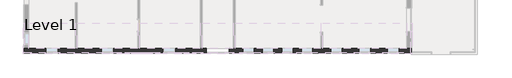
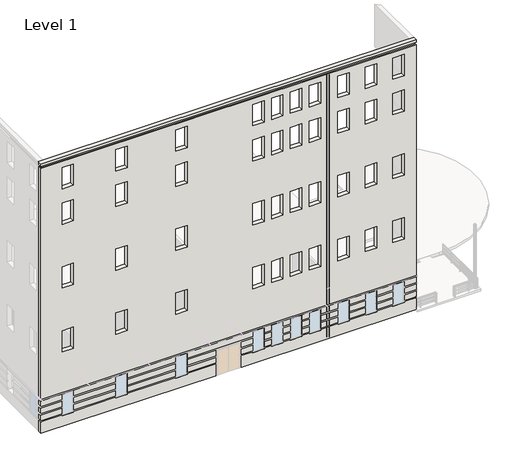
# One storey, part 2 of 16: 1 wall.
"""IFC4 building model written with IfcOpenShell, lengths in millimetres."""

from ifc_helpers import new_model, si_unit, origin, place, context, project, spatial, faceted_brep, element, save

model = new_model("IFC4")

# Units and contexts
model_context = context("Model", 3, world=origin())
ifc_project = project(units=[si_unit("LENGTHUNIT", "METRE", prefix="MILLI")], contexts=[model_context])

# Site, building, storey
site = spatial("IfcSite", under=ifc_project)
building = spatial("IfcBuilding", under=site)
storey = spatial("IfcBuildingStorey", under=building, Name="Level 1", Elevation=0.0)

# Wall
placement = place(None, origin())
element("IfcWall", 1, ObjectType="Exterior - Brick and CMU on MTL. Stud", at=placement, inside=storey, context=model_context, shape_type="Brep", body=[
    faceted_brep([(-20257.537755, -6410.4762891, 23164.8), (-19905.112755, -6410.4762891, 23164.8), (9870.037245, -6410.4762891, 23164.8), (10222.462245, -6410.4762891, 23164.8), (10222.462245, -6410.4762891, 22961.6), (10130.387245, -6410.4762891, 22961.6), (10130.387245, -6410.4762891, 22758.4), (10222.462245, -6410.4762891, 22758.4), (10222.462245, -6410.4762891, 2912.5333333), (10197.062245, -6410.4762891, 2912.5333333), (10197.062245, -6410.4762891, 2844.8), (10222.462245, -6410.4762891, 2844.8), (10222.462245, -6410.4762891, 2302.9333333), (10197.062245, -6410.4762891, 2302.9333333), (10197.062245, -6410.4762891, 2235.2), (10222.462245, -6410.4762891, 2235.2), (10222.462245, -6410.4762891, 1693.3333333), (10197.062245, -6410.4762891, 1693.3333333), (10197.062245, -6410.4762891, 1625.6), (10222.462245, -6410.4762891, 1625.6), (10222.462245, -6410.4762891, 1085.85), (10130.387245, -6410.4762891, 1085.85), (10130.387245, -6410.4762891, 1016.0), (10222.462245, -6410.4762891, 1016.0), (10222.462245, -6410.4762891, 0.0), (9870.037245, -6410.4762891, 0.0), (3240.637245, -6410.4762891, 0.0), (3085.062245, -6410.4762891, 0.0), (-3642.762755, -6410.4762891, 0.0), (-3798.337755, -6410.4762891, 0.0), (-4103.137755, -6410.4762891, 0.0), (-4103.137755, -6410.4762891, 2133.6), (-5931.937755, -6410.4762891, 2133.6), (-5931.937755, -6410.4762891, 0.0), (-6236.737755, -6410.4762891, 0.0), (-6392.312755, -6410.4762891, 0.0), (-11164.337755, -6410.4762891, 0.0), (-11319.912755, -6410.4762891, 0.0), (-16091.937755, -6410.4762891, 0.0), (-16247.512755, -6410.4762891, 0.0), (-19905.112755, -6410.4762891, 0.0), (-20257.537755, -6410.4762891, 0.0), (-20257.537755, -6410.4762891, 1016.0), (-20165.462755, -6410.4762891, 1016.0), (-20165.462755, -6410.4762891, 1085.85), (-20257.537755, -6410.4762891, 1085.85), (-20257.537755, -6410.4762891, 1625.6), (-20232.137755, -6410.4762891, 1625.6), (-20232.137755, -6410.4762891, 1693.3333333), (-20257.537755, -6410.4762891, 1693.3333333), (-20257.537755, -6410.4762891, 2235.2), (-20232.137755, -6410.4762891, 2235.2), (-20232.137755, -6410.4762891, 2302.9333333), (-20257.537755, -6410.4762891, 2302.9333333), (-20257.537755, -6410.4762891, 2844.8), (-20232.137755, -6410.4762891, 2844.8), (-20232.137755, -6410.4762891, 2912.5333333), (-20257.537755, -6410.4762891, 2912.5333333), (-20257.537755, -6410.4762891, 22758.4), (-20165.462755, -6410.4762891, 22758.4), (-20165.462755, -6410.4762891, 22961.6), (-20257.537755, -6410.4762891, 22961.6), (-17619.112755, -6410.4762891, 914.4), (-17619.112755, -6410.4762891, 2743.2), (-18533.512755, -6410.4762891, 2743.2), (-18533.512755, -6410.4762891, 914.4), (-13248.725255, -6410.4762891, 914.4), (-13248.725255, -6410.4762891, 2743.2), (-14163.125255, -6410.4762891, 2743.2), (-14163.125255, -6410.4762891, 914.4), (-8371.925255, -6410.4762891, 914.4), (-8371.925255, -6410.4762891, 2743.2), (-9286.325255, -6410.4762891, 2743.2), (-9286.325255, -6410.4762891, 914.4), (-2123.525255, -6410.4762891, 914.4), (-2123.525255, -6410.4762891, 2743.2), (-3037.925255, -6410.4762891, 2743.2), (-3037.925255, -6410.4762891, 914.4), (2462.762245, -6410.4762891, 914.4), (2462.762245, -6410.4762891, 2743.2), (1548.362245, -6410.4762891, 2743.2), (1548.362245, -6410.4762891, 914.4), (933.999745, -6410.4762891, 914.4), (933.999745, -6410.4762891, 2743.2), (19.599745, -6410.4762891, 2743.2), (19.599745, -6410.4762891, 914.4), (-594.762755, -6410.4762891, 914.4), (-594.762755, -6410.4762891, 2743.2), (-1509.162755, -6410.4762891, 2743.2), (-1509.162755, -6410.4762891, 914.4), (4778.924745, -6410.4762891, 914.4), (4778.924745, -6410.4762891, 2743.2), (3864.524745, -6410.4762891, 2743.2), (3864.524745, -6410.4762891, 914.4), (9260.437245, -6410.4762891, 914.4), (9260.437245, -6410.4762891, 2743.2), (8346.037245, -6410.4762891, 2743.2), (8346.037245, -6410.4762891, 914.4), (7019.680995, -6410.4762891, 914.4), (7019.680995, -6410.4762891, 2743.2), (6105.280995, -6410.4762891, 2743.2), (6105.280995, -6410.4762891, 914.4), (7019.680995, -6410.4762891, 6400.8), (7019.680995, -6410.4762891, 8229.6), (6105.280995, -6410.4762891, 8229.6), (6105.280995, -6410.4762891, 6400.8), (9260.437245, -6410.4762891, 6400.8), (9260.437245, -6410.4762891, 8229.6), (8346.037245, -6410.4762891, 8229.6), (8346.037245, -6410.4762891, 6400.8), (4778.924745, -6410.4762891, 6400.8), (4778.924745, -6410.4762891, 8229.6), (3864.524745, -6410.4762891, 8229.6), (3864.524745, -6410.4762891, 6400.8), (933.999745, -6410.4762891, 6400.8), (933.999745, -6410.4762891, 8229.6), (19.599745, -6410.4762891, 8229.6), (19.599745, -6410.4762891, 6400.8), (-594.762755, -6410.4762891, 6400.8), (-594.762755, -6410.4762891, 8229.6), (-1509.162755, -6410.4762891, 8229.6), (-1509.162755, -6410.4762891, 6400.8), (2462.762245, -6410.4762891, 6400.8), (2462.762245, -6410.4762891, 8229.6), (1548.362245, -6410.4762891, 8229.6), (1548.362245, -6410.4762891, 6400.8), (-2123.525255, -6410.4762891, 6400.8), (-2123.525255, -6410.4762891, 8229.6), (-3037.925255, -6410.4762891, 8229.6), (-3037.925255, -6410.4762891, 6400.8), (-8371.925255, -6410.4762891, 6400.8), (-8371.925255, -6410.4762891, 8229.6), (-9286.325255, -6410.4762891, 8229.6), (-9286.325255, -6410.4762891, 6400.8), (-13248.725255, -6410.4762891, 6400.8), (-13248.725255, -6410.4762891, 8229.6), (-14163.125255, -6410.4762891, 8229.6), (-14163.125255, -6410.4762891, 6400.8), (-17619.112755, -6410.4762891, 6400.8), (-17619.112755, -6410.4762891, 8229.6), (-18533.512755, -6410.4762891, 8229.6), (-18533.512755, -6410.4762891, 6400.8), (7019.680995, -6410.4762891, 11887.2), (7019.680995, -6410.4762891, 13716.0), (6105.280995, -6410.4762891, 13716.0), (6105.280995, -6410.4762891, 11887.2), (9260.437245, -6410.4762891, 11887.2), (9260.437245, -6410.4762891, 13716.0), (8346.037245, -6410.4762891, 13716.0), (8346.037245, -6410.4762891, 11887.2), (4778.924745, -6410.4762891, 11887.2), (4778.924745, -6410.4762891, 13716.0), (3864.524745, -6410.4762891, 13716.0), (3864.524745, -6410.4762891, 11887.2), (933.999745, -6410.4762891, 11887.2), (933.999745, -6410.4762891, 13716.0), (19.599745, -6410.4762891, 13716.0), (19.599745, -6410.4762891, 11887.2), (-594.762755, -6410.4762891, 11887.2), (-594.762755, -6410.4762891, 13716.0), (-1509.162755, -6410.4762891, 13716.0), (-1509.162755, -6410.4762891, 11887.2), (2462.762245, -6410.4762891, 11887.2), (2462.762245, -6410.4762891, 13716.0), (1548.362245, -6410.4762891, 13716.0), (1548.362245, -6410.4762891, 11887.2), (-2123.525255, -6410.4762891, 11887.2), (-2123.525255, -6410.4762891, 13716.0), (-3037.925255, -6410.4762891, 13716.0), (-3037.925255, -6410.4762891, 11887.2), (-8371.925255, -6410.4762891, 11887.2), (-8371.925255, -6410.4762891, 13716.0), (-9286.325255, -6410.4762891, 13716.0), (-9286.325255, -6410.4762891, 11887.2), (-13248.725255, -6410.4762891, 11887.2), (-13248.725255, -6410.4762891, 13716.0), (-14163.125255, -6410.4762891, 13716.0), (-14163.125255, -6410.4762891, 11887.2), (-17619.112755, -6410.4762891, 11887.2), (-17619.112755, -6410.4762891, 13716.0), (-18533.512755, -6410.4762891, 13716.0), (-18533.512755, -6410.4762891, 11887.2), (7019.680995, -6410.4762891, 17373.6), (7019.680995, -6410.4762891, 19202.4), (6105.280995, -6410.4762891, 19202.4), (6105.280995, -6410.4762891, 17373.6), (9260.437245, -6410.4762891, 17373.6), (9260.437245, -6410.4762891, 19202.4), (8346.037245, -6410.4762891, 19202.4), (8346.037245, -6410.4762891, 17373.6), (4778.924745, -6410.4762891, 17373.6), (4778.924745, -6410.4762891, 19202.4), (3864.524745, -6410.4762891, 19202.4), (3864.524745, -6410.4762891, 17373.6), (933.999745, -6410.4762891, 17373.6), (933.999745, -6410.4762891, 19202.4), (19.599745, -6410.4762891, 19202.4), (19.599745, -6410.4762891, 17373.6), (-594.762755, -6410.4762891, 17373.6), (-594.762755, -6410.4762891, 19202.4), (-1509.162755, -6410.4762891, 19202.4), (-1509.162755, -6410.4762891, 17373.6), (2462.762245, -6410.4762891, 17373.6), (2462.762245, -6410.4762891, 19202.4), (1548.362245, -6410.4762891, 19202.4), (1548.362245, -6410.4762891, 17373.6), (-2123.525255, -6410.4762891, 17373.6), (-2123.525255, -6410.4762891, 19202.4), (-3037.925255, -6410.4762891, 19202.4), (-3037.925255, -6410.4762891, 17373.6), (-8371.925255, -6410.4762891, 17373.6), (-8371.925255, -6410.4762891, 19202.4), (-9286.325255, -6410.4762891, 19202.4), (-9286.325255, -6410.4762891, 17373.6), (-13248.725255, -6410.4762891, 17373.6), (-13248.725255, -6410.4762891, 19202.4), (-14163.125255, -6410.4762891, 19202.4), (-14163.125255, -6410.4762891, 17373.6), (-17619.112755, -6410.4762891, 17373.6), (-17619.112755, -6410.4762891, 19202.4), (-18533.512755, -6410.4762891, 19202.4), (-18533.512755, -6410.4762891, 17373.6), (7019.680995, -6410.4762891, 20421.6), (7019.680995, -6410.4762891, 22250.4), (6105.280995, -6410.4762891, 22250.4), (6105.280995, -6410.4762891, 20421.6), (9260.437245, -6410.4762891, 20421.6), (9260.437245, -6410.4762891, 22250.4), (8346.037245, -6410.4762891, 22250.4), (8346.037245, -6410.4762891, 20421.6), (4778.924745, -6410.4762891, 20421.6), (4778.924745, -6410.4762891, 22250.4), (3864.524745, -6410.4762891, 22250.4), (3864.524745, -6410.4762891, 20421.6), (933.999745, -6410.4762891, 20421.6), (933.999745, -6410.4762891, 22250.4), (19.599745, -6410.4762891, 22250.4), (19.599745, -6410.4762891, 20421.6), (-594.762755, -6410.4762891, 20421.6), (-594.762755, -6410.4762891, 22250.4), (-1509.162755, -6410.4762891, 22250.4), (-1509.162755, -6410.4762891, 20421.6), (2462.762245, -6410.4762891, 20421.6), (2462.762245, -6410.4762891, 22250.4), (1548.362245, -6410.4762891, 22250.4), (1548.362245, -6410.4762891, 20421.6), (-2123.525255, -6410.4762891, 20421.6), (-2123.525255, -6410.4762891, 22250.4), (-3037.925255, -6410.4762891, 22250.4), (-3037.925255, -6410.4762891, 20421.6), (-8371.925255, -6410.4762891, 20421.6), (-8371.925255, -6410.4762891, 22250.4), (-9286.325255, -6410.4762891, 22250.4), (-9286.325255, -6410.4762891, 20421.6), (-13248.725255, -6410.4762891, 20421.6), (-13248.725255, -6410.4762891, 22250.4), (-14163.125255, -6410.4762891, 22250.4), (-14163.125255, -6410.4762891, 20421.6), (-17619.112755, -6410.4762891, 20421.6), (-17619.112755, -6410.4762891, 22250.4), (-18533.512755, -6410.4762891, 22250.4), (-18533.512755, -6410.4762891, 20421.6), (-20070.212755, -6410.4762891, 5308.6), (-19905.112755, -6410.4762891, 5308.6), (-16247.512755, -6410.4762891, 5308.6), (-16091.937755, -6410.4762891, 5308.6), (-11319.912755, -6410.4762891, 5308.6), (-11164.337755, -6410.4762891, 5308.6), (-6392.312755, -6410.4762891, 5308.6), (-6236.737755, -6410.4762891, 5308.6), (-3798.337755, -6410.4762891, 5308.6), (-3642.762755, -6410.4762891, 5308.6), (3085.062245, -6410.4762891, 5308.6), (3240.637245, -6410.4762891, 5308.6), (9870.037245, -6410.4762891, 5308.6), (10035.137245, -6410.4762891, 5308.6), (10035.137245, -6410.4762891, 5486.4), (9870.037245, -6410.4762891, 5486.4), (3239.6959701, -6410.4762891, 5486.4), (3084.1209701, -6410.4762891, 5486.4), (-7520.3790299, -6410.4762891, 5486.4), (-7675.9540299, -6410.4762891, 5486.4), (-16091.937755, -6410.4762891, 5486.4), (-16247.512755, -6410.4762891, 5486.4), (-19905.112755, -6410.4762891, 5486.4), (-20070.212755, -6410.4762891, 5486.4), (-20070.212755, -6410.4762891, 19329.4), (-19905.112755, -6410.4762891, 19329.4), (-16247.512755, -6410.4762891, 19329.4), (-16091.937755, -6410.4762891, 19329.4), (-6392.312755, -6410.4762891, 19329.4), (-6236.737755, -6410.4762891, 19329.4), (-3798.337755, -6410.4762891, 19329.4), (-3642.762755, -6410.4762891, 19329.4), (9870.037245, -6410.4762891, 19329.4), (10035.137245, -6410.4762891, 19329.4), (10035.137245, -6410.4762891, 19507.2), (9870.037245, -6410.4762891, 19507.2), (-3642.762755, -6410.4762891, 19507.2), (-3798.337755, -6410.4762891, 19507.2), (-6236.737755, -6410.4762891, 19507.2), (-6392.312755, -6410.4762891, 19507.2), (-16091.937755, -6410.4762891, 19507.2), (-16247.512755, -6410.4762891, 19507.2), (-19905.112755, -6410.4762891, 19507.2), (-20070.212755, -6410.4762891, 19507.2), (-20070.212755, -6410.4762891, 16281.4), (-19905.112755, -6410.4762891, 16281.4), (-16247.512755, -6410.4762891, 16281.4), (-16091.937755, -6410.4762891, 16281.4), (-7675.9540299, -6410.4762891, 16281.4), (-7520.3790299, -6410.4762891, 16281.4), (3084.1209701, -6410.4762891, 16281.4), (3239.6959701, -6410.4762891, 16281.4), (9870.037245, -6410.4762891, 16281.4), (10035.137245, -6410.4762891, 16281.4), (10035.137245, -6410.4762891, 16459.2), (9870.037245, -6410.4762891, 16459.2), (-3642.762755, -6410.4762891, 16459.2), (-3798.337755, -6410.4762891, 16459.2), (-6236.737755, -6410.4762891, 16459.2), (-6392.312755, -6410.4762891, 16459.2), (-16091.937755, -6410.4762891, 16459.2), (-16247.512755, -6410.4762891, 16459.2), (-19905.112755, -6410.4762891, 16459.2), (-20070.212755, -6410.4762891, 16459.2), (-20070.212755, -6410.4762891, 10795.0), (-19905.112755, -6410.4762891, 10795.0), (-16247.512755, -6410.4762891, 10795.0), (-16091.937755, -6410.4762891, 10795.0), (-7675.9540299, -6410.4762891, 10795.0), (-7520.3790299, -6410.4762891, 10795.0), (3084.1209701, -6410.4762891, 10795.0), (3239.6959701, -6410.4762891, 10795.0), (9870.037245, -6410.4762891, 10795.0), (10035.137245, -6410.4762891, 10795.0), (10035.137245, -6410.4762891, 10972.8), (9870.037245, -6410.4762891, 10972.8), (3239.6959701, -6410.4762891, 10972.8), (3084.1209701, -6410.4762891, 10972.8), (-7520.3790299, -6410.4762891, 10972.8), (-7675.9540299, -6410.4762891, 10972.8), (-16091.937755, -6410.4762891, 10972.8), (-16247.512755, -6410.4762891, 10972.8), (-19905.112755, -6410.4762891, 10972.8), (-20070.212755, -6410.4762891, 10972.8), (10222.462245, -6762.9012891, 23164.8), (-20257.537755, -6762.9012891, 23164.8), (-20257.537755, -6762.9012891, 22961.6), (10222.462245, -6762.9012891, 22961.6), (-20257.537755, -6762.9012891, 1693.3333333), (-18533.512755, -6762.9012891, 1693.3333333), (-18533.512755, -6762.9012891, 2235.2), (-20257.537755, -6762.9012891, 2235.2), (-18533.512755, -6762.9012891, 1625.6), (-20257.537755, -6762.9012891, 1625.6), (-20257.537755, -6762.9012891, 1085.85), (-18533.512755, -6762.9012891, 1085.85), (-20257.537755, -6762.9012891, 2302.9333333), (-18533.512755, -6762.9012891, 2302.9333333), (-18533.512755, -6762.9012891, 2743.2), (-17619.112755, -6762.9012891, 2743.2), (-17619.112755, -6762.9012891, 2302.9333333), (-14163.125255, -6762.9012891, 2302.9333333), (-14163.125255, -6762.9012891, 2743.2), (-13248.725255, -6762.9012891, 2743.2), (-13248.725255, -6762.9012891, 2302.9333333), (-9286.325255, -6762.9012891, 2302.9333333), (-9286.325255, -6762.9012891, 2743.2), (-8371.925255, -6762.9012891, 2743.2), (-8371.925255, -6762.9012891, 2302.9333333), (-3037.925255, -6762.9012891, 2302.9333333), (-3037.925255, -6762.9012891, 2743.2), (-2123.525255, -6762.9012891, 2743.2), (-2123.525255, -6762.9012891, 2302.9333333), (-1509.162755, -6762.9012891, 2302.9333333), (-1509.162755, -6762.9012891, 2743.2), (-594.762755, -6762.9012891, 2743.2), (-594.762755, -6762.9012891, 2302.9333333), (19.599745, -6762.9012891, 2302.9333333), (19.599745, -6762.9012891, 2743.2), (933.999745, -6762.9012891, 2743.2), (933.999745, -6762.9012891, 2302.9333333), (1548.362245, -6762.9012891, 2302.9333333), (1548.362245, -6762.9012891, 2743.2), (2462.762245, -6762.9012891, 2743.2), (2462.762245, -6762.9012891, 2302.9333333), (3864.524745, -6762.9012891, 2302.9333333), (3864.524745, -6762.9012891, 2743.2), (4778.924745, -6762.9012891, 2743.2), (4778.924745, -6762.9012891, 2302.9333333), (6105.280995, -6762.9012891, 2302.9333333), (6105.280995, -6762.9012891, 2743.2), (7019.680995, -6762.9012891, 2743.2), (7019.680995, -6762.9012891, 2302.9333333), (8346.037245, -6762.9012891, 2302.9333333), (8346.037245, -6762.9012891, 2743.2), (9260.437245, -6762.9012891, 2743.2), (9260.437245, -6762.9012891, 2302.9333333), (10222.462245, -6762.9012891, 2302.9333333), (10222.462245, -6762.9012891, 2844.8), (-20257.537755, -6762.9012891, 2844.8), (-18533.512755, -6762.9012891, 1016.0), (-20257.537755, -6762.9012891, 1016.0), (-20257.537755, -6762.9012891, 0.0), (-5931.937755, -6762.9012891, 0.0), (-5931.937755, -6762.9012891, 1016.0), (-8371.925255, -6762.9012891, 1016.0), (-8371.925255, -6762.9012891, 914.4), (-9286.325255, -6762.9012891, 914.4), (-9286.325255, -6762.9012891, 1016.0), (-13248.725255, -6762.9012891, 1016.0), (-13248.725255, -6762.9012891, 914.4), (-14163.125255, -6762.9012891, 914.4), (-14163.125255, -6762.9012891, 1016.0), (-17619.112755, -6762.9012891, 1016.0), (-17619.112755, -6762.9012891, 914.4), (-18533.512755, -6762.9012891, 914.4), (-20257.537755, -6762.9012891, 22758.4), (-20257.537755, -6762.9012891, 2912.5333333), (10222.462245, -6762.9012891, 2912.5333333), (10222.462245, -6762.9012891, 22758.4), (7019.680995, -6762.9012891, 8229.6), (7019.680995, -6762.9012891, 6400.8), (6105.280995, -6762.9012891, 6400.8), (6105.280995, -6762.9012891, 8229.6), (9260.437245, -6762.9012891, 8229.6), (9260.437245, -6762.9012891, 6400.8), (8346.037245, -6762.9012891, 6400.8), (8346.037245, -6762.9012891, 8229.6), (4778.924745, -6762.9012891, 8229.6), (4778.924745, -6762.9012891, 6400.8), (3864.524745, -6762.9012891, 6400.8), (3864.524745, -6762.9012891, 8229.6), (933.999745, -6762.9012891, 8229.6), (933.999745, -6762.9012891, 6400.8), (19.599745, -6762.9012891, 6400.8), (19.599745, -6762.9012891, 8229.6), (-594.762755, -6762.9012891, 8229.6), (-594.762755, -6762.9012891, 6400.8), (-1509.162755, -6762.9012891, 6400.8), (-1509.162755, -6762.9012891, 8229.6), (2462.762245, -6762.9012891, 8229.6), (2462.762245, -6762.9012891, 6400.8), (1548.362245, -6762.9012891, 6400.8), (1548.362245, -6762.9012891, 8229.6), (-2123.525255, -6762.9012891, 8229.6), (-2123.525255, -6762.9012891, 6400.8), (-3037.925255, -6762.9012891, 6400.8), (-3037.925255, -6762.9012891, 8229.6), (-8371.925255, -6762.9012891, 8229.6), (-8371.925255, -6762.9012891, 6400.8), (-9286.325255, -6762.9012891, 6400.8), (-9286.325255, -6762.9012891, 8229.6), (-13248.725255, -6762.9012891, 8229.6), (-13248.725255, -6762.9012891, 6400.8), (-14163.125255, -6762.9012891, 6400.8), (-14163.125255, -6762.9012891, 8229.6), (-17619.112755, -6762.9012891, 8229.6), (-17619.112755, -6762.9012891, 6400.8), (-18533.512755, -6762.9012891, 6400.8), (-18533.512755, -6762.9012891, 8229.6), (7019.680995, -6762.9012891, 13716.0), (7019.680995, -6762.9012891, 11887.2), (6105.280995, -6762.9012891, 11887.2), (6105.280995, -6762.9012891, 13716.0), (9260.437245, -6762.9012891, 13716.0), (9260.437245, -6762.9012891, 11887.2), (8346.037245, -6762.9012891, 11887.2), (8346.037245, -6762.9012891, 13716.0), (4778.924745, -6762.9012891, 13716.0), (4778.924745, -6762.9012891, 11887.2), (3864.524745, -6762.9012891, 11887.2), (3864.524745, -6762.9012891, 13716.0), (933.999745, -6762.9012891, 13716.0), (933.999745, -6762.9012891, 11887.2), (19.599745, -6762.9012891, 11887.2), (19.599745, -6762.9012891, 13716.0), (-594.762755, -6762.9012891, 13716.0), (-594.762755, -6762.9012891, 11887.2), (-1509.162755, -6762.9012891, 11887.2), (-1509.162755, -6762.9012891, 13716.0), (2462.762245, -6762.9012891, 13716.0), (2462.762245, -6762.9012891, 11887.2), (1548.362245, -6762.9012891, 11887.2), (1548.362245, -6762.9012891, 13716.0), (-2123.525255, -6762.9012891, 13716.0), (-2123.525255, -6762.9012891, 11887.2), (-3037.925255, -6762.9012891, 11887.2), (-3037.925255, -6762.9012891, 13716.0), (-8371.925255, -6762.9012891, 13716.0), (-8371.925255, -6762.9012891, 11887.2), (-9286.325255, -6762.9012891, 11887.2), (-9286.325255, -6762.9012891, 13716.0), (-13248.725255, -6762.9012891, 13716.0), (-13248.725255, -6762.9012891, 11887.2), (-14163.125255, -6762.9012891, 11887.2), (-14163.125255, -6762.9012891, 13716.0), (-17619.112755, -6762.9012891, 13716.0), (-17619.112755, -6762.9012891, 11887.2), (-18533.512755, -6762.9012891, 11887.2), (-18533.512755, -6762.9012891, 13716.0), (7019.680995, -6762.9012891, 19202.4), (7019.680995, -6762.9012891, 17373.6), (6105.280995, -6762.9012891, 17373.6), (6105.280995, -6762.9012891, 19202.4), (9260.437245, -6762.9012891, 19202.4), (9260.437245, -6762.9012891, 17373.6), (8346.037245, -6762.9012891, 17373.6), (8346.037245, -6762.9012891, 19202.4), (4778.924745, -6762.9012891, 19202.4), (4778.924745, -6762.9012891, 17373.6), (3864.524745, -6762.9012891, 17373.6), (3864.524745, -6762.9012891, 19202.4), (933.999745, -6762.9012891, 19202.4), (933.999745, -6762.9012891, 17373.6), (19.599745, -6762.9012891, 17373.6), (19.599745, -6762.9012891, 19202.4), (-594.762755, -6762.9012891, 19202.4), (-594.762755, -6762.9012891, 17373.6), (-1509.162755, -6762.9012891, 17373.6), (-1509.162755, -6762.9012891, 19202.4), (2462.762245, -6762.9012891, 19202.4), (2462.762245, -6762.9012891, 17373.6), (1548.362245, -6762.9012891, 17373.6), (1548.362245, -6762.9012891, 19202.4), (-2123.525255, -6762.9012891, 19202.4), (-2123.525255, -6762.9012891, 17373.6), (-3037.925255, -6762.9012891, 17373.6), (-3037.925255, -6762.9012891, 19202.4), (-8371.925255, -6762.9012891, 19202.4), (-8371.925255, -6762.9012891, 17373.6), (-9286.325255, -6762.9012891, 17373.6), (-9286.325255, -6762.9012891, 19202.4), (-13248.725255, -6762.9012891, 19202.4), (-13248.725255, -6762.9012891, 17373.6), (-14163.125255, -6762.9012891, 17373.6), (-14163.125255, -6762.9012891, 19202.4), (-17619.112755, -6762.9012891, 19202.4), (-17619.112755, -6762.9012891, 17373.6), (-18533.512755, -6762.9012891, 17373.6), (-18533.512755, -6762.9012891, 19202.4), (7019.680995, -6762.9012891, 22250.4), (7019.680995, -6762.9012891, 20421.6), (6105.280995, -6762.9012891, 20421.6), (6105.280995, -6762.9012891, 22250.4), (9260.437245, -6762.9012891, 22250.4), (9260.437245, -6762.9012891, 20421.6), (8346.037245, -6762.9012891, 20421.6), (8346.037245, -6762.9012891, 22250.4), (4778.924745, -6762.9012891, 22250.4), (4778.924745, -6762.9012891, 20421.6), (3864.524745, -6762.9012891, 20421.6), (3864.524745, -6762.9012891, 22250.4), (933.999745, -6762.9012891, 22250.4), (933.999745, -6762.9012891, 20421.6), (19.599745, -6762.9012891, 20421.6), (19.599745, -6762.9012891, 22250.4), (-594.762755, -6762.9012891, 22250.4), (-594.762755, -6762.9012891, 20421.6), (-1509.162755, -6762.9012891, 20421.6), (-1509.162755, -6762.9012891, 22250.4), (2462.762245, -6762.9012891, 22250.4), (2462.762245, -6762.9012891, 20421.6), (1548.362245, -6762.9012891, 20421.6), (1548.362245, -6762.9012891, 22250.4), (-2123.525255, -6762.9012891, 22250.4), (-2123.525255, -6762.9012891, 20421.6), (-3037.925255, -6762.9012891, 20421.6), (-3037.925255, -6762.9012891, 22250.4), (-8371.925255, -6762.9012891, 22250.4), (-8371.925255, -6762.9012891, 20421.6), (-9286.325255, -6762.9012891, 20421.6), (-9286.325255, -6762.9012891, 22250.4), (-13248.725255, -6762.9012891, 22250.4), (-13248.725255, -6762.9012891, 20421.6), (-14163.125255, -6762.9012891, 20421.6), (-14163.125255, -6762.9012891, 22250.4), (-17619.112755, -6762.9012891, 22250.4), (-17619.112755, -6762.9012891, 20421.6), (-18533.512755, -6762.9012891, 20421.6), (-18533.512755, -6762.9012891, 22250.4), (9260.437245, -6762.9012891, 1693.3333333), (10222.462245, -6762.9012891, 1693.3333333), (10222.462245, -6762.9012891, 2235.2), (9260.437245, -6762.9012891, 2235.2), (10222.462245, -6762.9012891, 1625.6), (9260.437245, -6762.9012891, 1625.6), (9260.437245, -6762.9012891, 1085.85), (10222.462245, -6762.9012891, 1085.85), (10222.462245, -6762.9012891, 0.0), (10222.462245, -6762.9012891, 1016.0), (9260.437245, -6762.9012891, 1016.0), (9260.437245, -6762.9012891, 914.4), (8346.037245, -6762.9012891, 914.4), (8346.037245, -6762.9012891, 1016.0), (7019.680995, -6762.9012891, 1016.0), (7019.680995, -6762.9012891, 914.4), (6105.280995, -6762.9012891, 914.4), (6105.280995, -6762.9012891, 1016.0), (4778.924745, -6762.9012891, 1016.0), (4778.924745, -6762.9012891, 914.4), (3864.524745, -6762.9012891, 914.4), (3864.524745, -6762.9012891, 1016.0), (2462.762245, -6762.9012891, 1016.0), (2462.762245, -6762.9012891, 914.4), (1548.362245, -6762.9012891, 914.4), (1548.362245, -6762.9012891, 1016.0), (933.999745, -6762.9012891, 1016.0), (933.999745, -6762.9012891, 914.4), (19.599745, -6762.9012891, 914.4), (19.599745, -6762.9012891, 1016.0), (-594.762755, -6762.9012891, 1016.0), (-594.762755, -6762.9012891, 914.4), (-1509.162755, -6762.9012891, 914.4), (-1509.162755, -6762.9012891, 1016.0), (-2123.525255, -6762.9012891, 1016.0), (-2123.525255, -6762.9012891, 914.4), (-3037.925255, -6762.9012891, 914.4), (-3037.925255, -6762.9012891, 1016.0), (-4103.137755, -6762.9012891, 1016.0), (-4103.137755, -6762.9012891, 0.0), (-5931.937755, -6762.9012891, 2133.6), (-4103.137755, -6762.9012891, 2133.6), (-4103.137755, -6762.9012891, 1693.3333333), (-3037.925255, -6762.9012891, 1693.3333333), (-3037.925255, -6762.9012891, 2235.2), (-8371.925255, -6762.9012891, 2235.2), (-8371.925255, -6762.9012891, 1693.3333333), (-5931.937755, -6762.9012891, 1693.3333333), (-5931.937755, -6762.9012891, 1085.85), (-5931.937755, -6762.9012891, 1625.6), (-8371.925255, -6762.9012891, 1625.6), (-8371.925255, -6762.9012891, 1085.85), (-4103.137755, -6762.9012891, 1625.6), (-4103.137755, -6762.9012891, 1085.85), (-3037.925255, -6762.9012891, 1085.85), (-3037.925255, -6762.9012891, 1625.6), (-17619.112755, -6762.9012891, 1693.3333333), (-14163.125255, -6762.9012891, 1693.3333333), (-14163.125255, -6762.9012891, 2235.2), (-17619.112755, -6762.9012891, 2235.2), (-14163.125255, -6762.9012891, 1625.6), (-17619.112755, -6762.9012891, 1625.6), (-17619.112755, -6762.9012891, 1085.85), (-14163.125255, -6762.9012891, 1085.85), (-13248.725255, -6762.9012891, 1693.3333333), (-9286.325255, -6762.9012891, 1693.3333333), (-9286.325255, -6762.9012891, 2235.2), (-13248.725255, -6762.9012891, 2235.2), (-9286.325255, -6762.9012891, 1625.6), (-13248.725255, -6762.9012891, 1625.6), (-13248.725255, -6762.9012891, 1085.85), (-9286.325255, -6762.9012891, 1085.85), (-2123.525255, -6762.9012891, 2235.2), (-2123.525255, -6762.9012891, 1693.3333333), (-1509.162755, -6762.9012891, 1693.3333333), (-1509.162755, -6762.9012891, 2235.2), (-2123.525255, -6762.9012891, 1625.6), (-2123.525255, -6762.9012891, 1085.85), (-1509.162755, -6762.9012891, 1085.85), (-1509.162755, -6762.9012891, 1625.6), (1548.362245, -6762.9012891, 1693.3333333), (1548.362245, -6762.9012891, 2235.2), (933.999745, -6762.9012891, 2235.2), (933.999745, -6762.9012891, 1693.3333333), (2462.762245, -6762.9012891, 2235.2), (2462.762245, -6762.9012891, 1693.3333333), (3864.524745, -6762.9012891, 1693.3333333), (3864.524745, -6762.9012891, 2235.2), (2462.762245, -6762.9012891, 1625.6), (2462.762245, -6762.9012891, 1085.85), (3864.524745, -6762.9012891, 1085.85), (3864.524745, -6762.9012891, 1625.6), (1548.362245, -6762.9012891, 1085.85), (1548.362245, -6762.9012891, 1625.6), (933.999745, -6762.9012891, 1625.6), (933.999745, -6762.9012891, 1085.85), (-594.762755, -6762.9012891, 1693.3333333), (19.599745, -6762.9012891, 1693.3333333), (19.599745, -6762.9012891, 2235.2), (-594.762755, -6762.9012891, 2235.2), (19.599745, -6762.9012891, 1625.6), (-594.762755, -6762.9012891, 1625.6), (-594.762755, -6762.9012891, 1085.85), (19.599745, -6762.9012891, 1085.85), (4778.924745, -6762.9012891, 1693.3333333), (6105.280995, -6762.9012891, 1693.3333333), (6105.280995, -6762.9012891, 2235.2), (4778.924745, -6762.9012891, 2235.2), (6105.280995, -6762.9012891, 1625.6), (4778.924745, -6762.9012891, 1625.6), (4778.924745, -6762.9012891, 1085.85), (6105.280995, -6762.9012891, 1085.85), (8346.037245, -6762.9012891, 1693.3333333), (8346.037245, -6762.9012891, 2235.2), (7019.680995, -6762.9012891, 2235.2), (7019.680995, -6762.9012891, 1693.3333333), (8346.037245, -6762.9012891, 1085.85), (8346.037245, -6762.9012891, 1625.6), (7019.680995, -6762.9012891, 1625.6), (7019.680995, -6762.9012891, 1085.85), (-20257.537755, -6670.8262891, 0.0), (-5931.937755, -6670.8262891, 0.0), (10222.462245, -6670.8262891, 0.0), (-4103.137755, -6670.8262891, 0.0), (-20232.137755, -6737.5012891, 1693.3333333), (-18533.512755, -6737.5012891, 1693.3333333), (-18533.512755, -6737.5012891, 1625.6), (-20232.137755, -6737.5012891, 1625.6), (-20232.137755, -6737.5012891, 2302.9333333), (-18533.512755, -6737.5012891, 2302.9333333), (-18533.512755, -6737.5012891, 2235.2), (-20232.137755, -6737.5012891, 2235.2), (10197.062245, -6737.5012891, 2844.8), (10197.062245, -6737.5012891, 2912.5333333), (-20232.137755, -6737.5012891, 2912.5333333), (-20232.137755, -6737.5012891, 2844.8), (-20165.462755, -6670.8262891, 1085.85), (-18533.512755, -6670.8262891, 1085.85), (-18533.512755, -6670.8262891, 1016.0), (-20165.462755, -6670.8262891, 1016.0), (10130.387245, -6670.8262891, 22758.4), (10130.387245, -6670.8262891, 22961.6), (-20165.462755, -6670.8262891, 22961.6), (-20165.462755, -6670.8262891, 22758.4), (10197.062245, -6737.5012891, 1693.3333333), (9260.437245, -6737.5012891, 1693.3333333), (10197.062245, -6737.5012891, 1625.6), (9260.437245, -6737.5012891, 1625.6), (10197.062245, -6737.5012891, 2302.9333333), (9260.437245, -6737.5012891, 2302.9333333), (10197.062245, -6737.5012891, 2235.2), (9260.437245, -6737.5012891, 2235.2), (10130.387245, -6670.8262891, 1085.85), (9260.437245, -6670.8262891, 1085.85), (10130.387245, -6670.8262891, 1016.0), (9260.437245, -6670.8262891, 1016.0), (-5931.937755, -6737.5012891, 1693.3333333), (-5931.937755, -6737.5012891, 1625.6), (-5931.937755, -6670.8262891, 1085.85), (-5931.937755, -6670.8262891, 1016.0), (-4103.137755, -6670.8262891, 1016.0), (-4103.137755, -6670.8262891, 1085.85), (-4103.137755, -6737.5012891, 1625.6), (-4103.137755, -6737.5012891, 1693.3333333), (-14163.125255, -6737.5012891, 1693.3333333), (-17619.112755, -6737.5012891, 1693.3333333), (-17619.112755, -6737.5012891, 1625.6), (-14163.125255, -6737.5012891, 1625.6), (-14163.125255, -6670.8262891, 1085.85), (-17619.112755, -6670.8262891, 1085.85), (-17619.112755, -6670.8262891, 1016.0), (-14163.125255, -6670.8262891, 1016.0), (-17619.112755, -6737.5012891, 2235.2), (-17619.112755, -6737.5012891, 2302.9333333), (-9286.325255, -6737.5012891, 1693.3333333), (-13248.725255, -6737.5012891, 1693.3333333), (-13248.725255, -6737.5012891, 1625.6), (-9286.325255, -6737.5012891, 1625.6), (-14163.125255, -6737.5012891, 2302.9333333), (-14163.125255, -6737.5012891, 2235.2), (-9286.325255, -6670.8262891, 1085.85), (-13248.725255, -6670.8262891, 1085.85), (-13248.725255, -6670.8262891, 1016.0), (-9286.325255, -6670.8262891, 1016.0), (-13248.725255, -6737.5012891, 2235.2), (-13248.725255, -6737.5012891, 2302.9333333), (-8371.925255, -6737.5012891, 1693.3333333), (-8371.925255, -6737.5012891, 1625.6), (-9286.325255, -6737.5012891, 2302.9333333), (-9286.325255, -6737.5012891, 2235.2), (-8371.925255, -6670.8262891, 1085.85), (-8371.925255, -6670.8262891, 1016.0), (-8371.925255, -6737.5012891, 2235.2), (-8371.925255, -6737.5012891, 2302.9333333), (-3037.925255, -6737.5012891, 1693.3333333), (-3037.925255, -6737.5012891, 1625.6), (-3037.925255, -6737.5012891, 2302.9333333), (-3037.925255, -6737.5012891, 2235.2), (-3037.925255, -6670.8262891, 1085.85), (-3037.925255, -6670.8262891, 1016.0), (-2123.525255, -6670.8262891, 1016.0), (-2123.525255, -6670.8262891, 1085.85), (-2123.525255, -6737.5012891, 1625.6), (-2123.525255, -6737.5012891, 1693.3333333), (-2123.525255, -6737.5012891, 2235.2), (-2123.525255, -6737.5012891, 2302.9333333), (-1509.162755, -6737.5012891, 1693.3333333), (-1509.162755, -6737.5012891, 1625.6), (-1509.162755, -6737.5012891, 2302.9333333), (-1509.162755, -6737.5012891, 2235.2), (-1509.162755, -6670.8262891, 1085.85), (-1509.162755, -6670.8262891, 1016.0), (2462.762245, -6670.8262891, 1016.0), (2462.762245, -6670.8262891, 1085.85), (2462.762245, -6737.5012891, 1625.6), (2462.762245, -6737.5012891, 1693.3333333), (2462.762245, -6737.5012891, 2235.2), (2462.762245, -6737.5012891, 2302.9333333), (1548.362245, -6737.5012891, 2302.9333333), (1548.362245, -6737.5012891, 2235.2), (1548.362245, -6737.5012891, 1693.3333333), (1548.362245, -6737.5012891, 1625.6), (1548.362245, -6670.8262891, 1085.85), (1548.362245, -6670.8262891, 1016.0), (19.599745, -6737.5012891, 1693.3333333), (-594.762755, -6737.5012891, 1693.3333333), (-594.762755, -6737.5012891, 1625.6), (19.599745, -6737.5012891, 1625.6), (19.599745, -6737.5012891, 2302.9333333), (-594.762755, -6737.5012891, 2302.9333333), (-594.762755, -6737.5012891, 2235.2), (19.599745, -6737.5012891, 2235.2), (19.599745, -6670.8262891, 1085.85), (-594.762755, -6670.8262891, 1085.85), (-594.762755, -6670.8262891, 1016.0), (19.599745, -6670.8262891, 1016.0), (933.999745, -6670.8262891, 1016.0), (933.999745, -6670.8262891, 1085.85), (933.999745, -6737.5012891, 1625.6), (933.999745, -6737.5012891, 1693.3333333), (933.999745, -6737.5012891, 2235.2), (933.999745, -6737.5012891, 2302.9333333), (3864.524745, -6737.5012891, 1693.3333333), (3864.524745, -6737.5012891, 1625.6), (3864.524745, -6737.5012891, 2302.9333333), (3864.524745, -6737.5012891, 2235.2), (3864.524745, -6670.8262891, 1085.85), (3864.524745, -6670.8262891, 1016.0), (4778.924745, -6670.8262891, 1016.0), (4778.924745, -6670.8262891, 1085.85), (4778.924745, -6737.5012891, 1625.6), (4778.924745, -6737.5012891, 1693.3333333), (4778.924745, -6737.5012891, 2235.2), (4778.924745, -6737.5012891, 2302.9333333), (6105.280995, -6737.5012891, 1693.3333333), (6105.280995, -6737.5012891, 1625.6), (6105.280995, -6737.5012891, 2302.9333333), (6105.280995, -6737.5012891, 2235.2), (6105.280995, -6670.8262891, 1085.85), (6105.280995, -6670.8262891, 1016.0), (8346.037245, -6737.5012891, 2302.9333333), (8346.037245, -6737.5012891, 2235.2), (8346.037245, -6737.5012891, 1693.3333333), (8346.037245, -6737.5012891, 1625.6), (8346.037245, -6670.8262891, 1085.85), (8346.037245, -6670.8262891, 1016.0), (7019.680995, -6737.5012891, 1693.3333333), (7019.680995, -6737.5012891, 1625.6), (7019.680995, -6737.5012891, 2302.9333333), (7019.680995, -6737.5012891, 2235.2), (7019.680995, -6670.8262891, 1085.85), (7019.680995, -6670.8262891, 1016.0), (-20070.212755, -6575.5762891, 5308.6), (10035.137245, -6575.5762891, 5308.6), (10035.137245, -6575.5762891, 5486.4), (-20070.212755, -6575.5762891, 5486.4), (-20070.212755, -6575.5762891, 19329.4), (10035.137245, -6575.5762891, 19329.4), (10035.137245, -6575.5762891, 19507.2), (-20070.212755, -6575.5762891, 19507.2), (-20070.212755, -6575.5762891, 16281.4), (10035.137245, -6575.5762891, 16281.4), (10035.137245, -6575.5762891, 16459.2), (-20070.212755, -6575.5762891, 16459.2), (-20070.212755, -6575.5762891, 10795.0), (10035.137245, -6575.5762891, 10795.0), (10035.137245, -6575.5762891, 10972.8), (-20070.212755, -6575.5762891, 10972.8)], [[[0, 1, 2, 3, 4, 5, 6, 7, 8, 9, 10, 11, 12, 13, 14, 15, 16, 17, 18, 19, 20, 21, 22, 23, 24, 25, 26, 27, 28, 29, 30, 31, 32, 33, 34, 35, 36, 37, 38, 39, 40, 41, 42, 43, 44, 45, 46, 47, 48, 49, 50, 51, 52, 53, 54, 55, 56, 57, 58, 59, 60, 61], [62, 63, 64, 65], [66, 67, 68, 69], [70, 71, 72, 73], [74, 75, 76, 77], [78, 79, 80, 81], [82, 83, 84, 85], [86, 87, 88, 89], [90, 91, 92, 93], [94, 95, 96, 97], [98, 99, 100, 101], [102, 103, 104, 105], [106, 107, 108, 109], [110, 111, 112, 113], [114, 115, 116, 117], [118, 119, 120, 121], [122, 123, 124, 125], [126, 127, 128, 129], [130, 131, 132, 133], [134, 135, 136, 137], [138, 139, 140, 141], [142, 143, 144, 145], [146, 147, 148, 149], [150, 151, 152, 153], [154, 155, 156, 157], [158, 159, 160, 161], [162, 163, 164, 165], [166, 167, 168, 169], [170, 171, 172, 173], [174, 175, 176, 177], [178, 179, 180, 181], [182, 183, 184, 185], [186, 187, 188, 189], [190, 191, 192, 193], [194, 195, 196, 197], [198, 199, 200, 201], [202, 203, 204, 205], [206, 207, 208, 209], [210, 211, 212, 213], [214, 215, 216, 217], [218, 219, 220, 221], [222, 223, 224, 225], [226, 227, 228, 229], [230, 231, 232, 233], [234, 235, 236, 237], [238, 239, 240, 241], [242, 243, 244, 245], [246, 247, 248, 249], [250, 251, 252, 253], [254, 255, 256, 257], [258, 259, 260, 261], [262, 263, 264, 265, 266, 267, 268, 269, 270, 271, 272, 273, 274, 275, 276, 277, 278, 279, 280, 281, 282, 283, 284, 285], [286, 287, 288, 289, 290, 291, 292, 293, 294, 295, 296, 297, 298, 299, 300, 301, 302, 303, 304, 305], [306, 307, 308, 309, 310, 311, 312, 313, 314, 315, 316, 317, 318, 319, 320, 321, 322, 323, 324, 325], [326, 327, 328, 329, 330, 331, 332, 333, 334, 335, 336, 337, 338, 339, 340, 341, 342, 343, 344, 345]], [[346, 347, 348, 349]], [[350, 351, 352, 353]], [[354, 355, 356, 357]], [[358, 359, 360, 361, 362, 363, 364, 365, 366, 367, 368, 369, 370, 371, 372, 373, 374, 375, 376, 377, 378, 379, 380, 381, 382, 383, 384, 385, 386, 387, 388, 389, 390, 391, 392, 393, 394, 395, 396, 397, 398, 399, 400, 401]], [[402, 403, 404, 405, 406, 407, 408, 409, 410, 411, 412, 413, 414, 415, 416, 417]], [[418, 419, 420, 421], [422, 423, 424, 425], [426, 427, 428, 429], [430, 431, 432, 433], [434, 435, 436, 437], [438, 439, 440, 441], [442, 443, 444, 445], [446, 447, 448, 449], [450, 451, 452, 453], [454, 455, 456, 457], [458, 459, 460, 461], [462, 463, 464, 465], [466, 467, 468, 469], [470, 471, 472, 473], [474, 475, 476, 477], [478, 479, 480, 481], [482, 483, 484, 485], [486, 487, 488, 489], [490, 491, 492, 493], [494, 495, 496, 497], [498, 499, 500, 501], [502, 503, 504, 505], [506, 507, 508, 509], [510, 511, 512, 513], [514, 515, 516, 517], [518, 519, 520, 521], [522, 523, 524, 525], [526, 527, 528, 529], [530, 531, 532, 533], [534, 535, 536, 537], [538, 539, 540, 541], [542, 543, 544, 545], [546, 547, 548, 549], [550, 551, 552, 553], [554, 555, 556, 557], [558, 559, 560, 561], [562, 563, 564, 565], [566, 567, 568, 569], [570, 571, 572, 573], [574, 575, 576, 577], [578, 579, 580, 581]], [[582, 583, 584, 585]], [[586, 587, 588, 589]], [[590, 591, 592, 593, 594, 595, 596, 597, 598, 599, 600, 601, 602, 603, 604, 605, 606, 607, 608, 609, 610, 611, 612, 613, 614, 615, 616, 617, 618, 619, 620, 621]], [[622, 623, 624, 625, 626, 627, 628, 629]], [[630, 631, 632, 633]], [[634, 635, 636, 637]], [[638, 639, 640, 641]], [[642, 643, 644, 645]], [[646, 647, 648, 649]], [[650, 651, 652, 653]], [[654, 655, 656, 657]], [[658, 659, 660, 661]], [[662, 663, 664, 665]], [[666, 667, 668, 669]], [[670, 671, 672, 673]], [[674, 675, 676, 677]], [[678, 679, 680, 681]], [[682, 683, 684, 685]], [[686, 687, 688, 689]], [[690, 691, 692, 693]], [[694, 695, 696, 697]], [[698, 699, 700, 701]], [[3, 2, 1, 0, 347, 346]], [[702, 41, 40, 39, 38, 37, 36, 35, 34, 33, 703]], [[24, 704, 705, 30, 29, 28, 27, 26, 25]], [[706, 707, 351, 350, 49, 48]], [[708, 709, 47, 46, 355, 354]], [[707, 706, 709, 708]], [[710, 711, 359, 358, 53, 52]], [[712, 713, 51, 50, 353, 352]], [[711, 710, 713, 712]], [[714, 715, 716, 717]], [[718, 719, 357, 356, 45, 44]], [[720, 721, 43, 42, 403, 402]], [[719, 718, 721, 720]], [[722, 723, 724, 725]], [[347, 0, 61, 348]], [[41, 702, 404, 403, 42]], [[49, 350, 353, 50]], [[355, 46, 45, 356]], [[53, 358, 401, 54]], [[58, 57, 419, 418]], [[717, 716, 56, 55]], [[725, 724, 60, 59]], [[3, 346, 349, 4]], [[704, 24, 23, 591, 590]], [[583, 16, 15, 584]], [[19, 586, 589, 20]], [[399, 12, 11, 400]], [[420, 8, 7, 421]], [[404, 702, 703, 405]], [[704, 590, 621, 705]], [[726, 17, 16, 583, 582, 727]], [[18, 728, 729, 587, 586, 19]], [[17, 726, 728, 18]], [[730, 13, 12, 399, 398, 731]], [[14, 732, 733, 585, 584, 15]], [[13, 730, 732, 14]], [[716, 715, 9, 8, 420, 419, 57, 56]], [[714, 717, 55, 54, 401, 400, 11, 10]], [[715, 714, 10, 9]], [[734, 21, 20, 589, 588, 735]], [[22, 736, 737, 592, 591, 23]], [[21, 734, 736, 22]], [[722, 725, 59, 58, 418, 421, 7, 6]], [[723, 722, 6, 5]], [[724, 723, 5, 4, 349, 348, 61, 60]], [[32, 622, 629, 738, 739, 631, 630, 740, 741, 406, 405, 703, 33]], [[622, 32, 31, 623]], [[623, 31, 30, 705, 621, 620, 742, 743, 635, 634, 744, 745, 624]], [[746, 747, 748, 749]], [[750, 751, 752, 753]], [[63, 62, 416, 415, 752, 751, 644, 643, 748, 747, 638, 641, 754, 755, 362, 361]], [[417, 416, 62, 65]], [[65, 64, 360, 359, 711, 712, 352, 351, 707, 708, 354, 357, 719, 720, 402, 417]], [[361, 360, 64, 63]], [[756, 757, 758, 759]], [[747, 746, 639, 638]], [[749, 748, 643, 642]], [[760, 755, 754, 761]], [[762, 763, 764, 765]], [[751, 750, 645, 644]], [[753, 752, 415, 414]], [[67, 66, 412, 411, 764, 763, 652, 651, 758, 757, 646, 649, 766, 767, 366, 365]], [[413, 412, 66, 69]], [[69, 68, 364, 363, 760, 761, 640, 639, 746, 749, 642, 645, 750, 753, 414, 413]], [[365, 364, 68, 67]], [[738, 768, 769, 739]], [[757, 756, 647, 646]], [[759, 758, 651, 650]], [[770, 767, 766, 771]], [[755, 760, 363, 362]], [[761, 754, 641, 640]], [[740, 772, 773, 741]], [[763, 762, 653, 652]], [[765, 764, 411, 410]], [[71, 70, 408, 407, 773, 772, 633, 632, 769, 768, 628, 627, 774, 775, 370, 369]], [[409, 408, 70, 73]], [[73, 72, 368, 367, 770, 771, 648, 647, 756, 759, 650, 653, 762, 765, 410, 409]], [[369, 368, 72, 71]], [[776, 745, 744, 777]], [[768, 738, 629, 628]], [[739, 769, 632, 631]], [[778, 775, 774, 779]], [[767, 770, 367, 366]], [[771, 766, 649, 648]], [[780, 743, 742, 781]], [[772, 740, 630, 633]], [[741, 773, 407, 406]], [[75, 74, 617, 616, 782, 783, 659, 658, 784, 785, 655, 654, 786, 787, 374, 373]], [[618, 617, 74, 77]], [[77, 76, 372, 371, 778, 779, 626, 625, 776, 777, 637, 636, 780, 781, 619, 618]], [[373, 372, 76, 75]], [[788, 785, 784, 789]], [[745, 776, 625, 624]], [[777, 744, 634, 637]], [[790, 787, 786, 791]], [[775, 778, 371, 370]], [[779, 774, 627, 626]], [[792, 783, 782, 793]], [[743, 780, 636, 635]], [[781, 742, 620, 619]], [[79, 78, 605, 604, 794, 795, 671, 670, 796, 797, 667, 666, 798, 799, 386, 385]], [[606, 605, 78, 81]], [[81, 80, 384, 383, 800, 801, 663, 662, 802, 803, 675, 674, 804, 805, 607, 606]], [[385, 384, 80, 79]], [[806, 807, 808, 809]], [[785, 788, 656, 655]], [[789, 784, 658, 661]], [[810, 811, 812, 813]], [[787, 790, 375, 374]], [[791, 786, 654, 657]], [[814, 815, 816, 817]], [[783, 792, 660, 659]], [[793, 782, 616, 615]], [[83, 82, 609, 608, 818, 819, 677, 676, 820, 821, 665, 664, 822, 823, 382, 381]], [[610, 609, 82, 85]], [[85, 84, 380, 379, 810, 813, 680, 679, 806, 809, 682, 685, 814, 817, 611, 610]], [[381, 380, 84, 83]], [[802, 821, 820, 803]], [[807, 806, 679, 678]], [[809, 808, 683, 682]], [[800, 823, 822, 801]], [[811, 810, 379, 378]], [[813, 812, 681, 680]], [[804, 819, 818, 805]], [[815, 814, 685, 684]], [[817, 816, 612, 611]], [[87, 86, 613, 612, 816, 815, 684, 683, 808, 807, 678, 681, 812, 811, 378, 377]], [[614, 613, 86, 89]], [[89, 88, 376, 375, 790, 791, 657, 656, 788, 789, 661, 660, 792, 793, 615, 614]], [[377, 376, 88, 87]], [[824, 797, 796, 825]], [[821, 802, 662, 665]], [[803, 820, 676, 675]], [[826, 799, 798, 827]], [[823, 800, 383, 382]], [[801, 822, 664, 663]], [[828, 795, 794, 829]], [[819, 804, 674, 677]], [[805, 818, 608, 607]], [[91, 90, 601, 600, 830, 831, 692, 691, 832, 833, 686, 689, 834, 835, 390, 389]], [[602, 601, 90, 93]], [[93, 92, 388, 387, 826, 827, 669, 668, 824, 825, 673, 672, 828, 829, 603, 602]], [[389, 388, 92, 91]], [[833, 836, 687, 686]], [[837, 832, 691, 690]], [[836, 833, 832, 837]], [[797, 824, 668, 667]], [[825, 796, 670, 673]], [[835, 838, 391, 390]], [[839, 834, 689, 688]], [[838, 835, 834, 839]], [[799, 826, 387, 386]], [[827, 798, 666, 669]], [[831, 840, 693, 692]], [[841, 830, 600, 599]], [[840, 831, 830, 841]], [[795, 828, 672, 671]], [[829, 794, 604, 603]], [[95, 94, 593, 592, 737, 735, 588, 587, 729, 727, 582, 585, 733, 731, 398, 397]], [[594, 593, 94, 97]], [[97, 96, 396, 395, 842, 843, 695, 694, 844, 845, 699, 698, 846, 847, 595, 594]], [[397, 396, 96, 95]], [[844, 848, 849, 845]], [[842, 850, 851, 843]], [[846, 852, 853, 847]], [[99, 98, 597, 596, 853, 852, 701, 700, 849, 848, 697, 696, 851, 850, 394, 393]], [[598, 597, 98, 101]], [[101, 100, 392, 391, 838, 839, 688, 687, 836, 837, 690, 693, 840, 841, 599, 598]], [[393, 392, 100, 99]], [[726, 727, 729, 728]], [[848, 844, 694, 697]], [[845, 849, 700, 699]], [[709, 706, 48, 47]], [[730, 731, 733, 732]], [[850, 842, 395, 394]], [[843, 851, 696, 695]], [[713, 710, 52, 51]], [[734, 735, 737, 736]], [[852, 846, 698, 701]], [[847, 853, 596, 595]], [[721, 718, 44, 43]], [[423, 422, 103, 102]], [[424, 423, 102, 105]], [[425, 424, 105, 104]], [[422, 425, 104, 103]], [[427, 426, 107, 106]], [[428, 427, 106, 109]], [[429, 428, 109, 108]], [[426, 429, 108, 107]], [[431, 430, 111, 110]], [[432, 431, 110, 113]], [[433, 432, 113, 112]], [[430, 433, 112, 111]], [[435, 434, 115, 114]], [[436, 435, 114, 117]], [[437, 436, 117, 116]], [[434, 437, 116, 115]], [[439, 438, 119, 118]], [[440, 439, 118, 121]], [[441, 440, 121, 120]], [[438, 441, 120, 119]], [[443, 442, 123, 122]], [[444, 443, 122, 125]], [[445, 444, 125, 124]], [[442, 445, 124, 123]], [[447, 446, 127, 126]], [[448, 447, 126, 129]], [[449, 448, 129, 128]], [[446, 449, 128, 127]], [[451, 450, 131, 130]], [[452, 451, 130, 133]], [[453, 452, 133, 132]], [[450, 453, 132, 131]], [[455, 454, 135, 134]], [[456, 455, 134, 137]], [[457, 456, 137, 136]], [[454, 457, 136, 135]], [[459, 458, 139, 138]], [[460, 459, 138, 141]], [[461, 460, 141, 140]], [[458, 461, 140, 139]], [[463, 462, 143, 142]], [[464, 463, 142, 145]], [[465, 464, 145, 144]], [[462, 465, 144, 143]], [[467, 466, 147, 146]], [[468, 467, 146, 149]], [[469, 468, 149, 148]], [[466, 469, 148, 147]], [[471, 470, 151, 150]], [[472, 471, 150, 153]], [[473, 472, 153, 152]], [[470, 473, 152, 151]], [[475, 474, 155, 154]], [[476, 475, 154, 157]], [[477, 476, 157, 156]], [[474, 477, 156, 155]], [[479, 478, 159, 158]], [[480, 479, 158, 161]], [[481, 480, 161, 160]], [[478, 481, 160, 159]], [[483, 482, 163, 162]], [[484, 483, 162, 165]], [[485, 484, 165, 164]], [[482, 485, 164, 163]], [[487, 486, 167, 166]], [[488, 487, 166, 169]], [[489, 488, 169, 168]], [[486, 489, 168, 167]], [[491, 490, 171, 170]], [[492, 491, 170, 173]], [[493, 492, 173, 172]], [[490, 493, 172, 171]], [[495, 494, 175, 174]], [[496, 495, 174, 177]], [[497, 496, 177, 176]], [[494, 497, 176, 175]], [[499, 498, 179, 178]], [[500, 499, 178, 181]], [[501, 500, 181, 180]], [[498, 501, 180, 179]], [[503, 502, 183, 182]], [[504, 503, 182, 185]], [[505, 504, 185, 184]], [[502, 505, 184, 183]], [[507, 506, 187, 186]], [[508, 507, 186, 189]], [[509, 508, 189, 188]], [[506, 509, 188, 187]], [[511, 510, 191, 190]], [[512, 511, 190, 193]], [[513, 512, 193, 192]], [[510, 513, 192, 191]], [[515, 514, 195, 194]], [[516, 515, 194, 197]], [[517, 516, 197, 196]], [[514, 517, 196, 195]], [[519, 518, 199, 198]], [[520, 519, 198, 201]], [[521, 520, 201, 200]], [[518, 521, 200, 199]], [[523, 522, 203, 202]], [[524, 523, 202, 205]], [[525, 524, 205, 204]], [[522, 525, 204, 203]], [[527, 526, 207, 206]], [[528, 527, 206, 209]], [[529, 528, 209, 208]], [[526, 529, 208, 207]], [[531, 530, 211, 210]], [[532, 531, 210, 213]], [[533, 532, 213, 212]], [[530, 533, 212, 211]], [[535, 534, 215, 214]], [[536, 535, 214, 217]], [[537, 536, 217, 216]], [[534, 537, 216, 215]], [[539, 538, 219, 218]], [[540, 539, 218, 221]], [[541, 540, 221, 220]], [[538, 541, 220, 219]], [[543, 542, 223, 222]], [[544, 543, 222, 225]], [[545, 544, 225, 224]], [[542, 545, 224, 223]], [[547, 546, 227, 226]], [[548, 547, 226, 229]], [[549, 548, 229, 228]], [[546, 549, 228, 227]], [[551, 550, 231, 230]], [[552, 551, 230, 233]], [[553, 552, 233, 232]], [[550, 553, 232, 231]], [[555, 554, 235, 234]], [[556, 555, 234, 237]], [[557, 556, 237, 236]], [[554, 557, 236, 235]], [[559, 558, 239, 238]], [[560, 559, 238, 241]], [[561, 560, 241, 240]], [[558, 561, 240, 239]], [[563, 562, 243, 242]], [[564, 563, 242, 245]], [[565, 564, 245, 244]], [[562, 565, 244, 243]], [[567, 566, 247, 246]], [[568, 567, 246, 249]], [[569, 568, 249, 248]], [[566, 569, 248, 247]], [[571, 570, 251, 250]], [[572, 571, 250, 253]], [[573, 572, 253, 252]], [[570, 573, 252, 251]], [[575, 574, 255, 254]], [[576, 575, 254, 257]], [[577, 576, 257, 256]], [[574, 577, 256, 255]], [[579, 578, 259, 258]], [[580, 579, 258, 261]], [[581, 580, 261, 260]], [[578, 581, 260, 259]], [[854, 855, 275, 274, 273, 272, 271, 270, 269, 268, 267, 266, 265, 264, 263, 262]], [[855, 856, 276, 275]], [[855, 854, 857, 856]], [[857, 854, 262, 285]], [[858, 859, 295, 294, 293, 292, 291, 290, 289, 288, 287, 286]], [[860, 861, 305, 304, 303, 302, 301, 300, 299, 298, 297, 296]], [[859, 860, 296, 295]], [[859, 858, 861, 860]], [[861, 858, 286, 305]], [[862, 863, 315, 314, 313, 312, 311, 310, 309, 308, 307, 306]], [[864, 865, 325, 324, 323, 322, 321, 320, 319, 318, 317, 316]], [[863, 864, 316, 315]], [[863, 862, 865, 864]], [[865, 862, 306, 325]], [[866, 867, 335, 334, 333, 332, 331, 330, 329, 328, 327, 326]], [[868, 869, 345, 344, 343, 342, 341, 340, 339, 338, 337, 336]], [[867, 868, 336, 335]], [[867, 866, 869, 868]], [[869, 866, 326, 345]], [[856, 857, 285, 284, 283, 282, 281, 280, 279, 278, 277, 276]]]),
])

save(model, "model.ifc")
